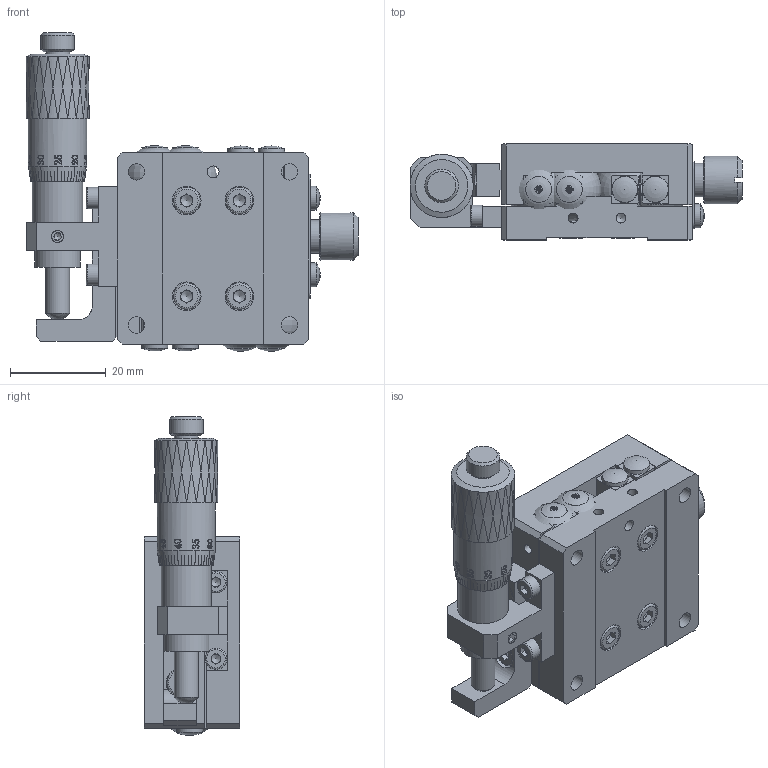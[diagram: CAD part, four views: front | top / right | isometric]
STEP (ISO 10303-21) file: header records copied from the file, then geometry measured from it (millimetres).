
FILE_DESCRIPTION (( 'STEP AP203' ), '1' );
FILE_NAME ('BPA40.STEP', '2024-07-23T11:50:51', ( 'Windows User' ), ( 'P R C' ), 'SwSTEP 2.0', 'SolidWorks 2024', '' );
FILE_SCHEMA (( 'CONFIG_CONTROL_DESIGN' ));
Length unit declared in the file: millimetre
Products named in the file (1): BPA40
Bounding box: 69.4 x 20 x 66.6 mm (x, y, z)
Volume: 30277.2 mm3; surface area: 29578.5 mm2
Topology: 29 solids, 29 shells, 1441 faces, 3591 edges, 2326 vertices
Faces by surface type: plane 591, bspline 395, cylinder 260, cone 172, torus 20, sphere 3
Full cylindrical faces by diameter (mm): 2 x10, 2.05 x15, 2.5 x17, 2.55 x8, 2.95 x9, 3 x13, 3.1 x2, 3.2 x2, 3.4 x12, 4.4 x8, 4.5 x2, 5 x6, 5.5 x10, 5.8 x2, 6 x12, 7 x2, 8.5 x1, 9.5 x2, 10 x1, 10.5 x1, 12.2 x1
Entity records: 72600 total; most frequent: CARTESIAN_POINT 43491, ORIENTED_EDGE 6516, DIRECTION 4415, EDGE_CURVE 3258, VERTEX_POINT 2225, EDGE_LOOP 1901, AXIS2_PLACEMENT_3D 1637, FACE_OUTER_BOUND 1574
